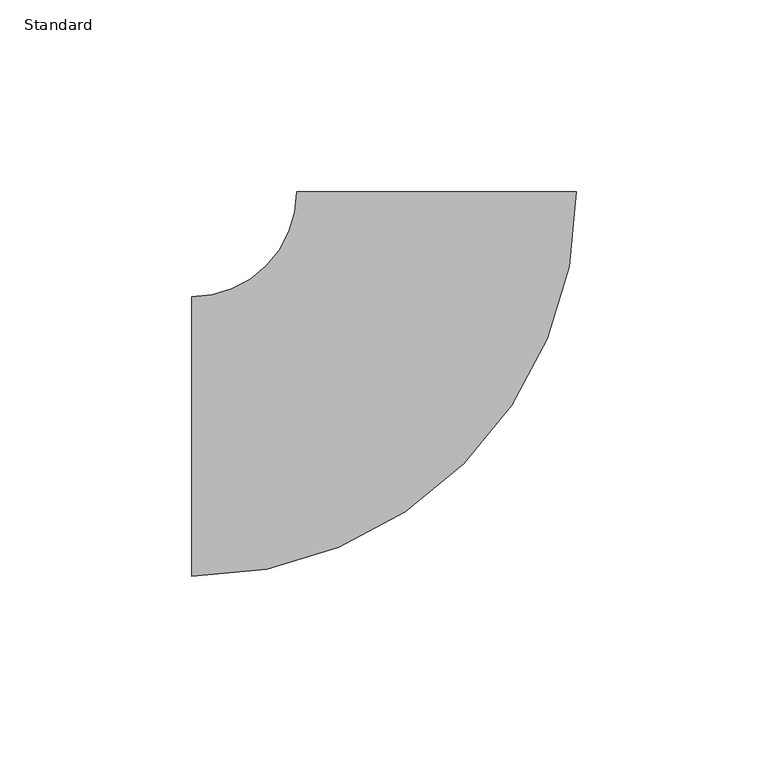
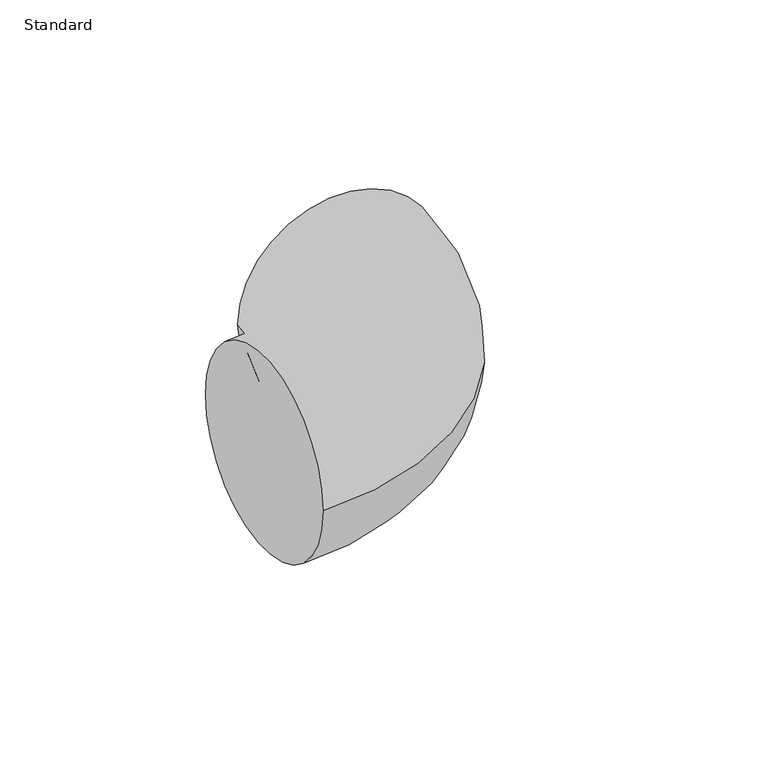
"""IFC4 building model written with IfcOpenShell, lengths in millimetres: pipe fitting geometry, Coude - Générique : Standard."""

from ifc_helpers import new_model, si_unit, point, frame, origin, place, context, project, spatial, circle_curve, ellipse_curve, trimmed, source, transform, mapped, element, save
from ifc_brep_helpers import plane_surface, revolved_surface, advanced_brep


def standard_d321a20b(model_context):
    return source(origin(), model_context, "Body", "AdvancedBrep", [
        advanced_brep(
        [(-64.0, -36.5, 0.0), (-64.0, 36.5, 0.0), (36.5, 64.0, 0.0), (-36.5, 64.0, 0.0)],
        [
            (0, 1, circle_curve(frame((-64.0, 0.0, 0.0), z_axis=(-1.0, 0.0, 0.0), x_axis=(0.0, 1.0, 0.0)), 36.5)),
            (1, 0, circle_curve(frame((-64.0, 0.0, 0.0), z_axis=(-1.0, 0.0, 0.0), x_axis=(0.0, 1.0, 0.0)), 36.5)),
            (2, 3, circle_curve(frame((0.0, 64.0, 0.0), z_axis=(0.0, 1.0, 0.0), x_axis=(-1.0, 0.0, 0.0)), 36.5)),
            (3, 2, circle_curve(frame((0.0, 64.0, 0.0), z_axis=(0.0, 1.0, 0.0), x_axis=(-1.0, 0.0, 0.0)), 36.5)),
            (3, 1, circle_curve(frame((-64.0, 64.0, 0.0), z_axis=(0.0, 0.0, -1.0), x_axis=(0.0, -1.0, 0.0)), 27.5)),
            (0, 2, circle_curve(frame((-64.0, 64.0, 0.0), z_axis=(0.0, 0.0, 1.0), x_axis=(0.0, -1.0, 0.0)), 100.5)),
        ],
        [
            plane_surface(frame((-64.0, 0.0, 0.0), z_axis=(-1.0, 0.0, 0.0), x_axis=(0.0, 0.0, 1.0))),
            plane_surface(frame((0.0, 64.0, 0.0), z_axis=(0.0, 1.0, 0.0), x_axis=(0.0, 0.0, 1.0))),
            revolved_surface(trimmed(ellipse_curve(frame((-64.0, 0.0, 0.0), z_axis=(-1.0, 0.0, 0.0), x_axis=(0.0, 1.0, 0.0)), 36.5, 36.5), [point((-64.0, -36.5, 0.0))], [point((-64.0, 36.5, 0.0))], True, "CARTESIAN"), (-64.0, 64.0, 0.0), (0.0, 0.0, 1.0)),
            revolved_surface(trimmed(ellipse_curve(frame((-64.0, 0.0, 0.0), z_axis=(-1.0, 0.0, 0.0), x_axis=(0.0, 1.0, 0.0)), 36.5, 36.5), [point((-64.0, 36.5, 0.0))], [point((-64.0, -36.5, 0.0))], True, "CARTESIAN"), (-64.0, 64.0, 0.0), (0.0, 0.0, 1.0)),
        ],
        [
            (0, [[1, 2]]),
            (1, [[3, 4]]),
            (2, [[5, -1, 6, -4]]),
            (3, [[-6, -2, -5, -3]]),
        ],
    ),
    ])


if __name__ == "__main__":
    model = new_model("IFC4")
    model_context = context("Model", 3, world=origin())
    ifc_project = project(units=[si_unit("LENGTHUNIT", "METRE", prefix="MILLI")], contexts=[model_context])
    site = spatial("IfcSite", under=ifc_project)
    building = spatial("IfcBuilding", under=site)
    placement = place(None, origin())
    standard_shape = standard_d321a20b(model_context)
    element("IfcPipeFitting", 1, ObjectType="Coude - Générique : Standard", at=placement, inside=building, context=model_context, shape_type="MappedRepresentation", body=[
        mapped(standard_shape, transform((0.0, 0.0, 0.0), x_axis=(1.0, 0.0, 0.0), y_axis=(0.0, 1.0, 0.0), z_axis=(0.0, 0.0, 1.0))),
    ])
    save(model, "model.ifc")
